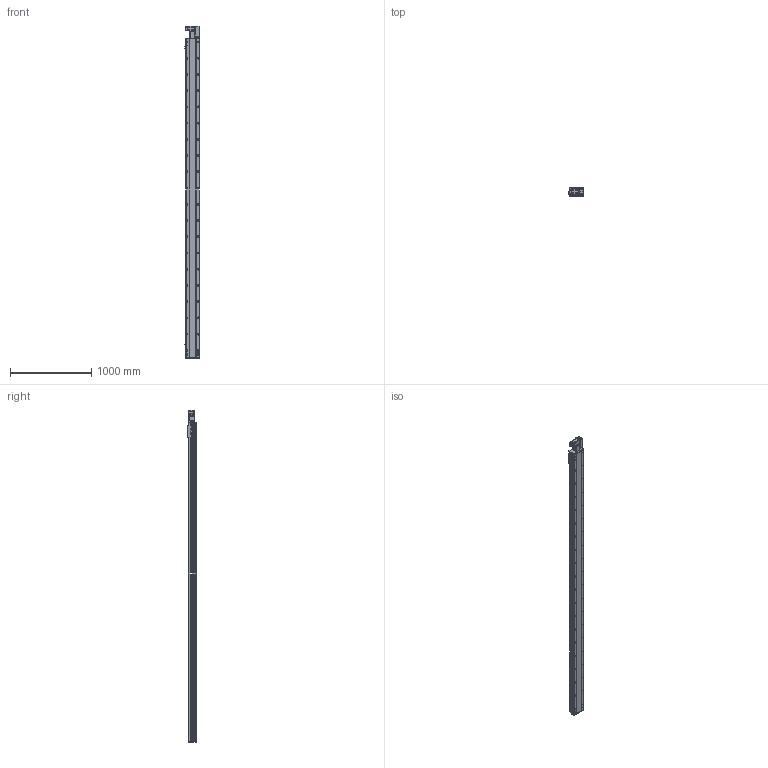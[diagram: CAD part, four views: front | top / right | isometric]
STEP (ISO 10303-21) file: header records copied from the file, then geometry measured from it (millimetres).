
FILE_DESCRIPTION (( 'STEP AP214' ), '1' );
FILE_NAME ('RTB17S-XX-3650-R-M40-C4.STEP', '2025-12-11T08:02:42', ( '' ), ( '' ), 'SwSTEP 2.0', 'SolidWorks 2018', '' );
FILE_SCHEMA (( 'AUTOMOTIVE_DESIGN' ));
Length unit declared in the file: millimetre
Products named in the file (14): RTB14-L-018P^RTB17S-R-々湍釱蚾饜-400W_RTB17S-XX-XX-R-M40-C4; 400W侜督萇儂^RTB17S-XX-XX-R-M40-C4; RTB17S-L-014-T20--々湍釱^RTB17S-R-々湍釱蚾饜-400W_RTB17S-XX-XX-R-M40-C4; RTB17S-R-々湍釱蚾饜-400W^RTB17S-XX-XX-R-M40-C4; OMRON EE-SX672 传感器^RTB17S-XX-XX-R-M40-C4; RTB14-L-005P--轴承塑胶压盖^RTB17S-R-皮带座装配-400W_RTB17S-XX-XX-R-M40-C4; RTB17S-XX-3650-R-M40-C4; RTB17S-L-007奻裔^RTB17S-XX-XX-R-M40-C4; RTB14-L-008-M20--萇儂啣^RTB17S-R-々湍釱蚾饜-400W_RTB17S-XX-XX-R-M40-C4; RTB17S-L-001耜醱啣^RTB17S-XX-XX-R-M40-C4; RTB17S-L-004佪裝蹟譫蟀諉釱^RTB17S-XX-XX-R-M40-C4; RTH13-BL-012覜茼え俋离^RTB17S-XX-XX-R-M40-C4; RTB14-L-017P^RTB17S-R-々湍釱蚾饜-400W_RTB17S-XX-XX-R-M40-C4; RTB17-R-011菁釱^RTB17S-XX-XX-R-M40-C4
Assembly tree (16 placements, depth 3):
  RTB17S-XX-3650-R-M40-C4
    RTB17-R-011菁釱^RTB17S-XX-XX-R-M40-C4
    RTB17S-L-007奻裔^RTB17S-XX-XX-R-M40-C4
    OMRON EE-SX672 传感器^RTB17S-XX-XX-R-M40-C4  x3
    RTB17S-L-001耜醱啣^RTB17S-XX-XX-R-M40-C4
    400W侜督萇儂^RTB17S-XX-XX-R-M40-C4
    RTB17S-L-004佪裝蹟譫蟀諉釱^RTB17S-XX-XX-R-M40-C4
    RTH13-BL-012覜茼え俋离^RTB17S-XX-XX-R-M40-C4
    RTB17S-R-々湍釱蚾饜-400W^RTB17S-XX-XX-R-M40-C4
      RTB17S-L-014-T20--々湍釱^RTB17S-R-々湍釱蚾饜-400W_RTB17S-XX-XX-R-M40-C4
      RTB14-L-005P--轴承塑胶压盖^RTB17S-R-皮带座装配-400W_RTB17S-XX-XX-R-M40-C4
      RTB14-L-008-M20--萇儂啣^RTB17S-R-々湍釱蚾饜-400W_RTB17S-XX-XX-R-M40-C4
      RTB14-L-017P^RTB17S-R-々湍釱蚾饜-400W_RTB17S-XX-XX-R-M40-C4  x2
      RTB14-L-018P^RTB17S-R-々湍釱蚾饜-400W_RTB17S-XX-XX-R-M40-C4
Bounding box: 183.5 x 108 x 4091 mm (x, y, z)
Volume: 33979620.4 mm3; surface area: 3856485.6 mm2
Topology: 15 solids, 15 shells, 2429 faces, 6843 edges, 4473 vertices
Faces by surface type: plane 1096, cylinder 885, bspline 301, cone 139, torus 8
Entity records: 73385 total; most frequent: CARTESIAN_POINT 21048, ORIENTED_EDGE 10530, DIRECTION 9656, EDGE_CURVE 5265, VERTEX_POINT 3461, AXIS2_PLACEMENT_3D 3391, VECTOR 2874, LINE 2874
